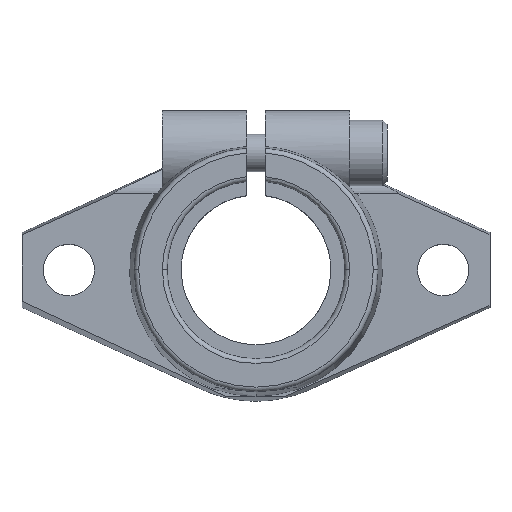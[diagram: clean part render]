
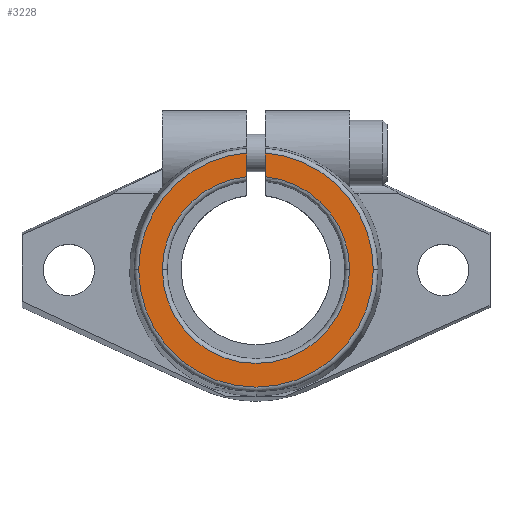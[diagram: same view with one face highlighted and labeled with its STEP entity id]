
A CAD part, top view. The second image highlights one B-rep face of the part: STEP entity #3228.
In plain terms, the highlighted planar face has unit normal (0, 0, 1).
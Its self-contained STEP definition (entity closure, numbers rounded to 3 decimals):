
#77 = EDGE_CURVE ( 'NONE', #3699, #1845, #2000, .T. ) ;
#112 = VERTEX_POINT ( 'NONE', #2659 ) ;
#303 = ORIENTED_EDGE ( 'NONE', *, *, #2481, .T. ) ;
#311 = DIRECTION ( 'NONE',  ( 1., 0., 0. ) ) ;
#342 = CARTESIAN_POINT ( 'NONE',  ( 10., 0., 16. ) ) ;
#390 = VERTEX_POINT ( 'NONE', #2492 ) ;
#464 = ORIENTED_EDGE ( 'NONE', *, *, #1306, .T. ) ;
#553 = DIRECTION ( 'NONE',  ( 1., 0., 0. ) ) ;
#597 = AXIS2_PLACEMENT_3D ( 'NONE', #3162, #2303, #553 ) ;
#631 = AXIS2_PLACEMENT_3D ( 'NONE', #2746, #659, #3624 ) ;
#659 = DIRECTION ( 'NONE',  ( 0., 0., -1. ) ) ;
#687 = VERTEX_POINT ( 'NONE', #1633 ) ;
#811 = DIRECTION ( 'NONE',  ( 0., 0., -1. ) ) ;
#1011 = AXIS2_PLACEMENT_3D ( 'NONE', #2691, #1565, #311 ) ;
#1014 = EDGE_CURVE ( 'NONE', #3067, #1283, #3670, .T. ) ;
#1050 = AXIS2_PLACEMENT_3D ( 'NONE', #2987, #2421, #1768 ) ;
#1129 = AXIS2_PLACEMENT_3D ( 'NONE', #2920, #2630, #1846 ) ;
#1228 = DIRECTION ( 'NONE',  ( 0., -1., 0. ) ) ;
#1283 = VERTEX_POINT ( 'NONE', #3270 ) ;
#1306 = EDGE_CURVE ( 'NONE', #1283, #390, #3627, .T. ) ;
#1355 = ORIENTED_EDGE ( 'NONE', *, *, #1014, .T. ) ;
#1401 = DIRECTION ( 'NONE',  ( 1., 0., 0. ) ) ;
#1565 = DIRECTION ( 'NONE',  ( 0., 0., 1. ) ) ;
#1591 = FACE_OUTER_BOUND ( 'NONE', #2085, .T. ) ;
#1633 = CARTESIAN_POINT ( 'NONE',  ( -1., 12.49, 16. ) ) ;
#1634 = CIRCLE ( 'NONE', #2783, 10. ) ;
#1762 = ORIENTED_EDGE ( 'NONE', *, *, #2186, .T. ) ;
#1768 = DIRECTION ( 'NONE',  ( 1., 0., 0. ) ) ;
#1845 = VERTEX_POINT ( 'NONE', #2532 ) ;
#1846 = DIRECTION ( 'NONE',  ( 1., 0., 0. ) ) ;
#1905 = ORIENTED_EDGE ( 'NONE', *, *, #3301, .T. ) ;
#1913 = VECTOR ( 'NONE', #1228, 1000. ) ;
#1970 = EDGE_CURVE ( 'NONE', #2204, #112, #2713, .T. ) ;
#1973 = EDGE_CURVE ( 'NONE', #687, #2204, #3268, .T. ) ;
#1991 = ORIENTED_EDGE ( 'NONE', *, *, #1970, .T. ) ;
#2000 = LINE ( 'NONE', #3142, #1913 ) ;
#2085 = EDGE_LOOP ( 'NONE', ( #303, #2293, #1991, #1762, #3108, #1905, #1355, #464 ) ) ;
#2186 = EDGE_CURVE ( 'NONE', #112, #3699, #2892, .T. ) ;
#2204 = VERTEX_POINT ( 'NONE', #2677 ) ;
#2293 = ORIENTED_EDGE ( 'NONE', *, *, #1973, .T. ) ;
#2303 = DIRECTION ( 'NONE',  ( 0., 0., 1. ) ) ;
#2307 = LINE ( 'NONE', #2558, #3325 ) ;
#2421 = DIRECTION ( 'NONE',  ( 0., 0., -1. ) ) ;
#2481 = EDGE_CURVE ( 'NONE', #390, #687, #2307, .T. ) ;
#2492 = CARTESIAN_POINT ( 'NONE',  ( -1., 9.95, 16. ) ) ;
#2506 = CARTESIAN_POINT ( 'NONE',  ( 1., 12.49, 16. ) ) ;
#2532 = CARTESIAN_POINT ( 'NONE',  ( 1., 9.95, 16. ) ) ;
#2558 = CARTESIAN_POINT ( 'NONE',  ( -1., 3.25, 16. ) ) ;
#2630 = DIRECTION ( 'NONE',  ( 0., 0., 1. ) ) ;
#2659 = CARTESIAN_POINT ( 'NONE',  ( 12.53, 0., 16. ) ) ;
#2677 = CARTESIAN_POINT ( 'NONE',  ( -12.53, 0., 16. ) ) ;
#2691 = CARTESIAN_POINT ( 'NONE',  ( 0., 0., 16. ) ) ;
#2713 = CIRCLE ( 'NONE', #1129, 12.53 ) ;
#2742 = PLANE ( 'NONE',  #3338 ) ;
#2746 = CARTESIAN_POINT ( 'NONE',  ( 0., 0., 16. ) ) ;
#2783 = AXIS2_PLACEMENT_3D ( 'NONE', #3090, #811, #2793 ) ;
#2793 = DIRECTION ( 'NONE',  ( 1., 0., 0. ) ) ;
#2886 = DIRECTION ( 'NONE',  ( 0., 1., 0. ) ) ;
#2892 = CIRCLE ( 'NONE', #597, 12.53 ) ;
#2920 = CARTESIAN_POINT ( 'NONE',  ( 0., 0., 16. ) ) ;
#2987 = CARTESIAN_POINT ( 'NONE',  ( 0., 0., 16. ) ) ;
#3067 = VERTEX_POINT ( 'NONE', #342 ) ;
#3090 = CARTESIAN_POINT ( 'NONE',  ( 0., 0., 16. ) ) ;
#3108 = ORIENTED_EDGE ( 'NONE', *, *, #77, .T. ) ;
#3122 = CARTESIAN_POINT ( 'NONE',  ( 0., 6.5, 16. ) ) ;
#3142 = CARTESIAN_POINT ( 'NONE',  ( 1., 13.25, 16. ) ) ;
#3162 = CARTESIAN_POINT ( 'NONE',  ( 0., 0., 16. ) ) ;
#3228 = ADVANCED_FACE ( 'NONE', ( #1591 ), #2742, .T. ) ;
#3268 = CIRCLE ( 'NONE', #1011, 12.53 ) ;
#3270 = CARTESIAN_POINT ( 'NONE',  ( -10., 0., 16. ) ) ;
#3301 = EDGE_CURVE ( 'NONE', #1845, #3067, #1634, .T. ) ;
#3325 = VECTOR ( 'NONE', #2886, 1000. ) ;
#3338 = AXIS2_PLACEMENT_3D ( 'NONE', #3122, #3744, #1401 ) ;
#3624 = DIRECTION ( 'NONE',  ( 1., 0., 0. ) ) ;
#3627 = CIRCLE ( 'NONE', #631, 10. ) ;
#3670 = CIRCLE ( 'NONE', #1050, 10. ) ;
#3699 = VERTEX_POINT ( 'NONE', #2506 ) ;
#3744 = DIRECTION ( 'NONE',  ( 0., 0., 1. ) ) ;
